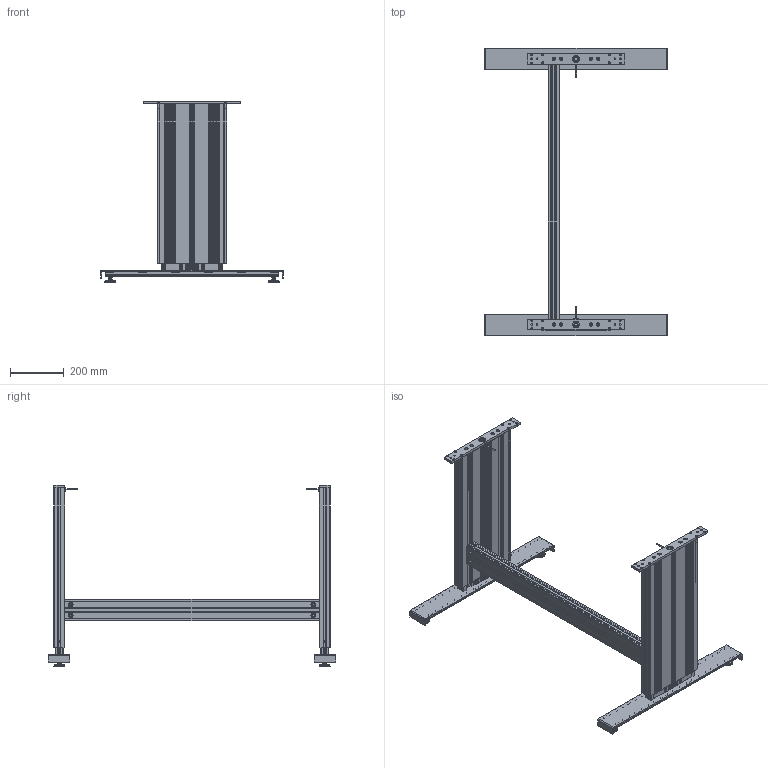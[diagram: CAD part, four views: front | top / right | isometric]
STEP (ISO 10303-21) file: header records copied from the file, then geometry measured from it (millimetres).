
FILE_DESCRIPTION(/* description */ ('Unknown'),/* implementation_level */ '2;1');
FILE_NAME(/* name */ '108.00182 Untergestell TT-2 1440 990_eingefahren',/* time_stamp */ '2017-11-24T14:40:27+01:00',/* author */ ('Unknown'),/* organization */ ('Unknown'),/* preprocessor_version */ 'ST-DEVELOPER v16.7',/* originating_system */ 'DEX',/* authorisation */ $);
FILE_SCHEMA (('AUTOMOTIVE_DESIGN {1 0 10303 214 3 1 1}'));
Products named in the file (31): 108.00182; 106.00315_oa_0; 119.00201; 119.00152; 124.00004; 142.00188; 142.00166; 142.00031; 126.00102; 107.00027_oa_1; 115.00007_oa_2; 125.00021; 125.00033; 142.00021; 113.00002_70mm; 106.00315_oa_3; 107.00027_oa_4; 115.00007_oa_5; 115.00092; 119.00172; 142.00207; 127.00515; 127.00520; 127.00556; 127.00557; 127.00520_461_469_Kehlnaht 1_oa_6; 113.00095; 113.00099; 113.00096; 113.00097; 113.00098
Assembly tree (54 placements, depth 5):
  108.00182
    106.00315_oa_0
      119.00201
      119.00152
      124.00004
      142.00188  x2
      142.00166  x4
      142.00031
      126.00102
      107.00027_oa_1
        115.00007_oa_2
        125.00021
        125.00033
        142.00021
      113.00002_70mm
    106.00315_oa_3
      119.00201
      119.00152
      124.00004
      142.00188  x2
      142.00166  x4
      142.00031
      126.00102
      107.00027_oa_4
        115.00007_oa_5
        125.00021
        125.00033
        142.00021
      113.00002_70mm
    115.00092
      119.00172
      142.00207  x4
    127.00515  x2
      127.00520
        127.00556
        127.00557
        127.00520_461_469_Kehlnaht 1_oa_6
      113.00095
        113.00099
        113.00096
          113.00097
          113.00098
Bounding box: 680 x 1070 x 676.5 mm (x, y, z)
Volume: 7126654 mm3; surface area: 5118999.2 mm2
Topology: 75 solids, 83 shells, 4902 faces, 13934 edges, 9262 vertices
Faces by surface type: plane 3044, cylinder 1552, cone 196, torus 76, bspline 24, sphere 10
Full cylindrical faces by diameter (mm): 1.8 x4, 2.2 x2, 2.78 x2, 3.242 x4, 3.5 x2, 4 x6, 4.1 x2, 4.2 x2, 5 x12, 5.5 x8, 6.6 x8, 6.647 x16, 6.917 x4, 7.5 x4, 8 x18, 8.376 x6, 8.5 x20, 8.7 x8, 9 x2, 10 x8, 11.3 x8, 12 x6, 12.5 x10, 13 x4, 13.5 x6, 13.7 x2, 13.9 x4, 18 x16, 25 x10, 27.2 x4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
Entity records: 85551 total; most frequent: CARTESIAN_POINT 14631, ORIENTED_EDGE 13082, DIRECTION 12741, EDGE_CURVE 6541, LINE 4481, VECTOR 4481, VERTEX_POINT 4432, AXIS2_PLACEMENT_3D 4130
